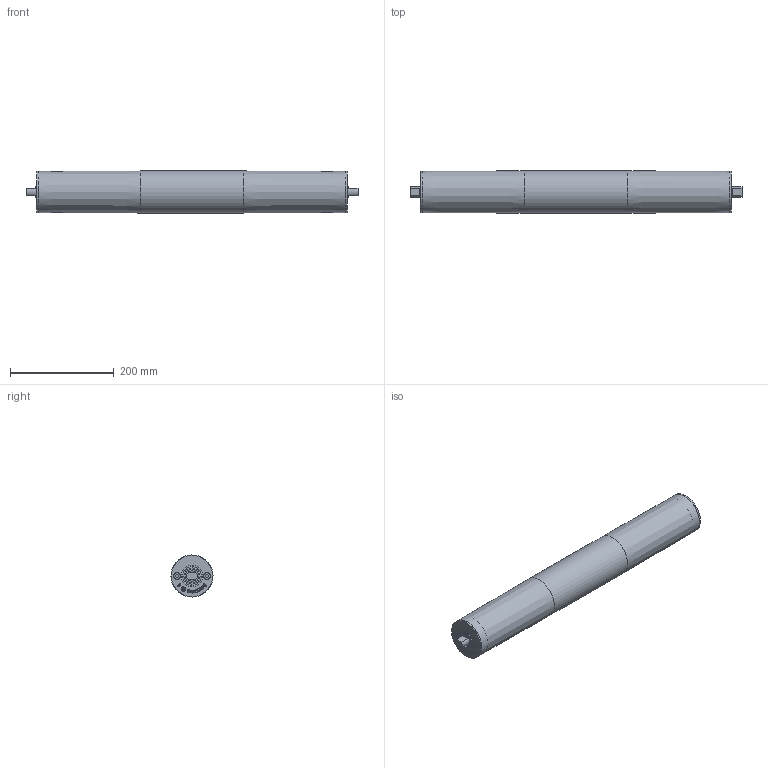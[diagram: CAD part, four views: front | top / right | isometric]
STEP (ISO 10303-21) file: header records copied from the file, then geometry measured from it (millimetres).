
FILE_DESCRIPTION(/* description */ (''),/* implementation_level */ '2;1');
FILE_NAME(/* name */ 'C:\WF_Ellegaard\Designs\00 standart komponenter\Tromlemotor\Scandrive S\Ø80\Scandrive S Ø80 RL600.stp',/* time_stamp */ '2017-04-19T18:38:11+02:00',/* author */ ('guh'),/* organization */ (''),/* preprocessor_version */ 'ST-DEVELOPER v15.6',/* originating_system */ 'Autodesk Inventor 2015',/* authorisation */ '');
FILE_SCHEMA (('AUTOMOTIVE_DESIGN { 1 0 10303 214 3 1 1 }'));
Length unit declared in the file: millimetre
Products named in the file (1): Scandrive S Ø80 RL600
Bounding box: 641 x 81.5 x 81.5 mm (x, y, z)
Volume: 428511.9 mm3; surface area: 333160 mm2
Topology: 1 solids, 2 shells, 484 faces, 1252 edges, 834 vertices
Faces by surface type: plane 260, bspline 196, cylinder 22, cone 4, torus 2
Full cylindrical faces by diameter (mm): 12 x2, 13 x2, 20 x2, 26 x2, 26.02 x2, 41.98 x2, 42 x2, 77 x2, 78 x1, 80 x2, 80.003 x2, 81.5 x1
Entity records: 15597 total; most frequent: CARTESIAN_POINT 5087, ORIENTED_EDGE 2444, DIRECTION 1468, EDGE_CURVE 1222, VERTEX_POINT 832, LINE 770, VECTOR 770, EDGE_LOOP 574
